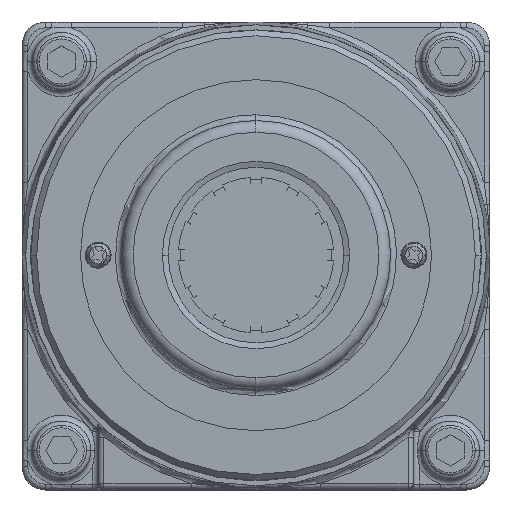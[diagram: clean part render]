
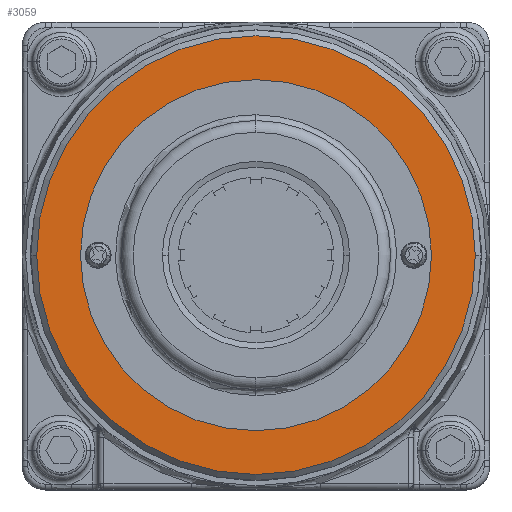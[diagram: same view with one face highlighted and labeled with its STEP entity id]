
A CAD part, top view. The second image highlights one B-rep face of the part: STEP entity #3059.
In plain terms, the highlighted planar face has unit normal (0, 0, 1).
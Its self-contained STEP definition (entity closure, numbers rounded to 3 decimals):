
#372=PLANE('',#14636);
#591=FACE_BOUND('',#4863,.T.);
#592=FACE_BOUND('',#4864,.T.);
#3059=ADVANCED_FACE('',(#591,#592),#372,.F.);
#4863=EDGE_LOOP('',(#8332,#8333));
#4864=EDGE_LOOP('',(#8334,#8335));
#5714=CIRCLE('',#14509,37.5);
#5718=CIRCLE('',#14519,30.);
#5762=CIRCLE('',#14599,37.5);
#5773=CIRCLE('',#14635,30.);
#8332=ORIENTED_EDGE('',*,*,#12292,.F.);
#8333=ORIENTED_EDGE('',*,*,#12559,.F.);
#8334=ORIENTED_EDGE('',*,*,#12258,.F.);
#8335=ORIENTED_EDGE('',*,*,#12476,.F.);
#10676=VERTEX_POINT('',#25095);
#10677=VERTEX_POINT('',#25096);
#10702=VERTEX_POINT('',#25371);
#10703=VERTEX_POINT('',#25372);
#12258=EDGE_CURVE('',#10676,#10677,#5714,.T.);
#12292=EDGE_CURVE('',#10702,#10703,#5718,.T.);
#12476=EDGE_CURVE('',#10677,#10676,#5762,.T.);
#12559=EDGE_CURVE('',#10703,#10702,#5773,.T.);
#14509=AXIS2_PLACEMENT_3D('',#25094,#17182,#17183);
#14519=AXIS2_PLACEMENT_3D('',#25370,#17214,#17215);
#14599=AXIS2_PLACEMENT_3D('',#27850,#17433,#17434);
#14635=AXIS2_PLACEMENT_3D('',#28942,#17543,#17544);
#14636=AXIS2_PLACEMENT_3D('',#28943,#17545,#17546);
#17182=DIRECTION('',(0.,0.,-1.));
#17183=DIRECTION('',(-1.,0.,0.));
#17214=DIRECTION('',(0.,0.,1.));
#17215=DIRECTION('',(-1.,0.,0.));
#17433=DIRECTION('',(0.,0.,-1.));
#17434=DIRECTION('',(-1.,0.,0.));
#17543=DIRECTION('',(0.,0.,1.));
#17544=DIRECTION('',(-1.,0.,0.));
#17545=DIRECTION('',(0.,0.,-1.));
#17546=DIRECTION('',(1.,0.,0.));
#25094=CARTESIAN_POINT('',(0.,0.,85.));
#25095=CARTESIAN_POINT('',(-37.5,0.,85.));
#25096=CARTESIAN_POINT('',(37.5,0.,85.));
#25370=CARTESIAN_POINT('',(0.,0.,85.));
#25371=CARTESIAN_POINT('',(-30.,0.,85.));
#25372=CARTESIAN_POINT('',(30.,0.,85.));
#27850=CARTESIAN_POINT('',(0.,0.,85.));
#28942=CARTESIAN_POINT('',(0.,0.,85.));
#28943=CARTESIAN_POINT('',(0.,0.,85.));
